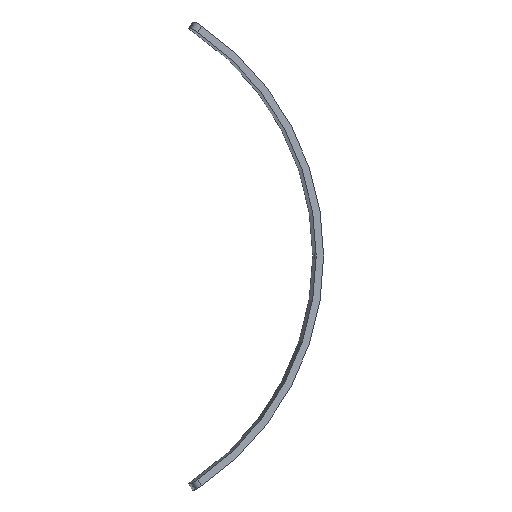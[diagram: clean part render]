
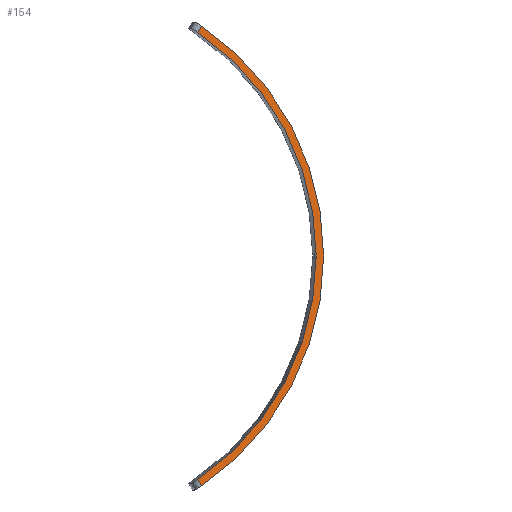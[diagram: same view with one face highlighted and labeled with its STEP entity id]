
A CAD part, left-side view. The second image highlights one B-rep face of the part: STEP entity #154.
In plain terms, the highlighted planar face has unit normal (-0.997, -0.079, 0).
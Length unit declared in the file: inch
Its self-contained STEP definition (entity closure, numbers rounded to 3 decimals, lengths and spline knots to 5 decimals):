
#13 = CARTESIAN_POINT ( 'NONE',  ( 6.46159, -120.33878, -0.53524 ) ) ;
#32 = EDGE_CURVE ( 'NONE', #696, #636, #413, .T. ) ;
#56 = CARTESIAN_POINT ( 'NONE',  ( 7.99044, -139.76468, -30.21722 ) ) ;
#67 = CARTESIAN_POINT ( 'NONE',  ( 6.46159, -120.33878, 0.53524 ) ) ;
#75 = LINE ( 'NONE', #13, #256 ) ;
#154 = ADVANCED_FACE ( 'NONE', ( #663 ), #670, .T. ) ;
#177 = CIRCLE ( 'NONE', #193, 36.42 ) ;
#193 = AXIS2_PLACEMENT_3D ( 'NONE', #712, #196, #431 ) ;
#196 = DIRECTION ( 'NONE',  ( 0.997, 0.078, 0. ) ) ;
#226 = ORIENTED_EDGE ( 'NONE', *, *, #32, .F. ) ;
#242 = EDGE_CURVE ( 'NONE', #365, #636, #257, .T. ) ;
#245 = AXIS2_PLACEMENT_3D ( 'NONE', #336, #572, #389 ) ;
#256 = VECTOR ( 'NONE', #383, 39.37008 ) ;
#257 = LINE ( 'NONE', #67, #387 ) ;
#277 = VERTEX_POINT ( 'NONE', #659 ) ;
#336 = CARTESIAN_POINT ( 'NONE',  ( 6.39532, -119.49668, 0. ) ) ;
#343 = CARTESIAN_POINT ( 'NONE',  ( 8.03245, -140.29846, 31.06223 ) ) ;
#345 = ORIENTED_EDGE ( 'NONE', *, *, #592, .T. ) ;
#361 = CARTESIAN_POINT ( 'NONE',  ( 6.39532, -119.49668, 0. ) ) ;
#365 = VERTEX_POINT ( 'NONE', #56 ) ;
#368 = ORIENTED_EDGE ( 'NONE', *, *, #505, .T. ) ;
#383 = DIRECTION ( 'NONE',  ( -0.042, 0.534, -0.845 ) ) ;
#387 = VECTOR ( 'NONE', #604, 39.37008 ) ;
#389 = DIRECTION ( 'NONE',  ( 0.078, -0.997, 0. ) ) ;
#413 = CIRCLE ( 'NONE', #450, 37.42 ) ;
#431 = DIRECTION ( 'NONE',  ( -0.078, 0.997, 0. ) ) ;
#450 = AXIS2_PLACEMENT_3D ( 'NONE', #361, #485, #650 ) ;
#485 = DIRECTION ( 'NONE',  ( 0.997, 0.078, 0. ) ) ;
#505 = EDGE_CURVE ( 'NONE', #696, #277, #75, .T. ) ;
#569 = CARTESIAN_POINT ( 'NONE',  ( 8.03245, -140.29846, -31.06223 ) ) ;
#572 = DIRECTION ( 'NONE',  ( -0.997, -0.078, 0. ) ) ;
#592 = EDGE_CURVE ( 'NONE', #277, #365, #177, .T. ) ;
#599 = ORIENTED_EDGE ( 'NONE', *, *, #242, .T. ) ;
#604 = DIRECTION ( 'NONE',  ( 0.042, -0.534, -0.845 ) ) ;
#636 = VERTEX_POINT ( 'NONE', #569 ) ;
#650 = DIRECTION ( 'NONE',  ( -0.078, 0.997, 0. ) ) ;
#659 = CARTESIAN_POINT ( 'NONE',  ( 7.99044, -139.76468, 30.21722 ) ) ;
#663 = FACE_OUTER_BOUND ( 'NONE', #748, .T. ) ;
#670 = PLANE ( 'NONE',  #245 ) ;
#696 = VERTEX_POINT ( 'NONE', #343 ) ;
#712 = CARTESIAN_POINT ( 'NONE',  ( 6.39532, -119.49668, 0. ) ) ;
#748 = EDGE_LOOP ( 'NONE', ( #345, #599, #226, #368 ) ) ;
